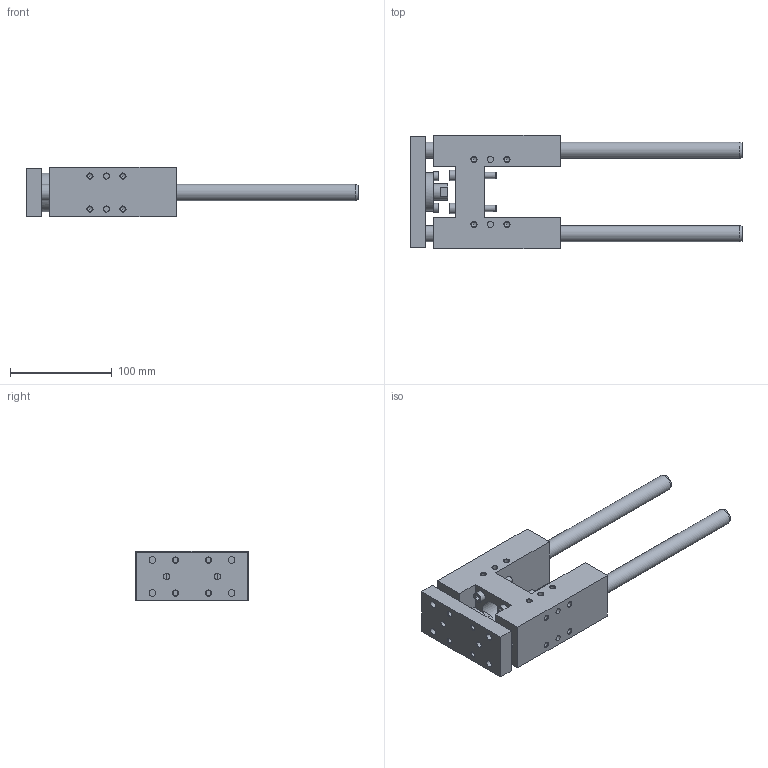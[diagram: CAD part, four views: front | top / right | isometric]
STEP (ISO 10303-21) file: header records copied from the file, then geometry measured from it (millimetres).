
FILE_DESCRIPTION( ( 'STEP AP214' ), '1' );
FILE_NAME( 'U:/Etudes/Top Solid/BIBLIO 3D AVM/TOP/PNEUMATIQUE/GUIDAGES/Type 32 (en H)/R_Renforcée/324R3_30.step', '2005-05-27T08:51:12', ( ' ' ), ( ' ' ), 'XStep 1.0', ' ', ' ' );
FILE_SCHEMA( ( 'automotive_design' ) );
Length unit declared in the file: metre
Products named in the file (2): 1; 2
Bounding box: 327 x 112 x 49 mm (x, y, z)
Volume: 583274.9 mm3; surface area: 128254.5 mm2
Topology: 2 solids, 5 shells, 269 faces, 602 edges, 401 vertices
Faces by surface type: plane 128, cylinder 96, cone 45
Full cylindrical faces by diameter (mm): 4.918 x32, 5 x4, 5.5 x2, 6 x16, 6.2 x12, 6.5 x4, 6.6 x4, 8.5 x2, 8.647 x2, 10 x4, 11 x4, 16 x5, 18 x1, 22.8 x1, 25 x1, 30 x1, 38 x1
Entity records: 8627 total; most frequent: CARTESIAN_POINT 1195, DIRECTION 1138, ORIENTED_EDGE 772, EDGE_LOOP 500, AXIS2_PLACEMENT_3D 487, EDGE_CURVE 386, FACE_OUTER_BOUND 365, VERTEX_POINT 340
